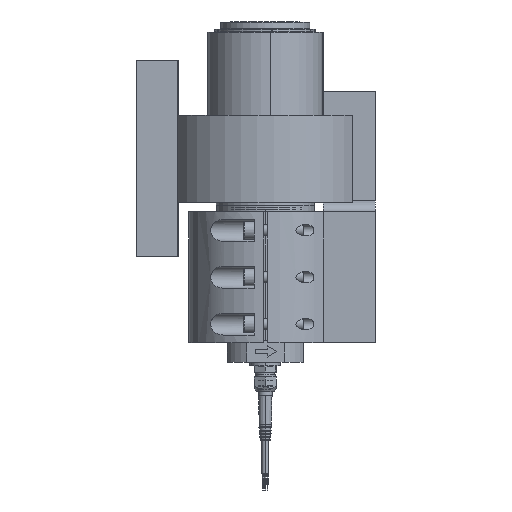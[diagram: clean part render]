
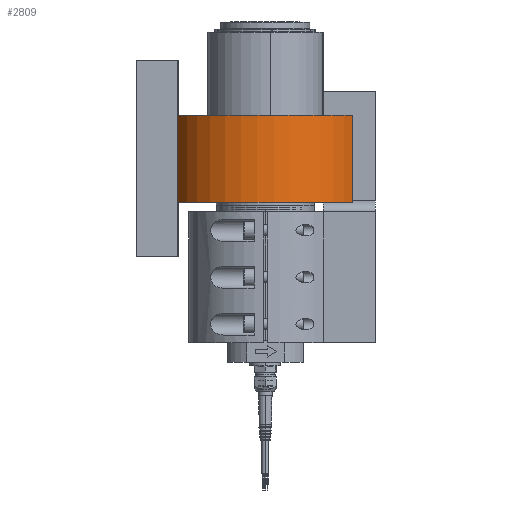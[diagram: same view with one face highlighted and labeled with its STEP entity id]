
A CAD part, left-side view. The second image highlights one B-rep face of the part: STEP entity #2809.
In plain terms, the highlighted cylindrical face has radius 89 mm (diameter 178 mm), a partial arc.
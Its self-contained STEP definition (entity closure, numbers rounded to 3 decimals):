
#1204 = CARTESIAN_POINT ( 'NONE',  ( 200., -80., -40. ) ) ;
#2445 = CARTESIAN_POINT ( 'NONE',  ( 239., 0., 40. ) ) ;
#2809 = ADVANCED_FACE ( 'NONE', ( #2856 ), #22918, .T. ) ;
#2856 = FACE_OUTER_BOUND ( 'NONE', #26923, .T. ) ;
#4667 = DIRECTION ( 'NONE',  ( 0., 0., -1. ) ) ;
#4773 = ORIENTED_EDGE ( 'NONE', *, *, #9980, .F. ) ;
#5910 = DIRECTION ( 'NONE',  ( 0., 0., -1. ) ) ;
#7178 = DIRECTION ( 'NONE',  ( -1., 0., 0. ) ) ;
#8385 = LINE ( 'NONE', #2445, #31697 ) ;
#9082 = VERTEX_POINT ( 'NONE', #31969 ) ;
#9980 = EDGE_CURVE ( 'NONE', #27619, #9082, #8385, .T. ) ;
#10208 = AXIS2_PLACEMENT_3D ( 'NONE', #1204, #4667, #7178 ) ;
#11312 = ORIENTED_EDGE ( 'NONE', *, *, #18009, .T. ) ;
#11700 = CARTESIAN_POINT ( 'NONE',  ( 200., -80., 40. ) ) ;
#12691 = CARTESIAN_POINT ( 'NONE',  ( 200., -80., 40. ) ) ;
#13656 = CARTESIAN_POINT ( 'NONE',  ( 239., -160., 40. ) ) ;
#14162 = DIRECTION ( 'NONE',  ( 0., 0., -1. ) ) ;
#14577 = DIRECTION ( 'NONE',  ( 0., 0., -1. ) ) ;
#16141 = DIRECTION ( 'NONE',  ( -1., 0., 0. ) ) ;
#16373 = EDGE_CURVE ( 'NONE', #9082, #35735, #37613, .T. ) ;
#17601 = VECTOR ( 'NONE', #5910, 1000. ) ;
#18009 = EDGE_CURVE ( 'NONE', #23436, #35735, #34923, .T. ) ;
#21521 = CIRCLE ( 'NONE', #25154, 89. ) ;
#21867 = CARTESIAN_POINT ( 'NONE',  ( 239., 0., 40. ) ) ;
#21993 = AXIS2_PLACEMENT_3D ( 'NONE', #11700, #14577, #34963 ) ;
#22396 = EDGE_CURVE ( 'NONE', #27619, #23436, #21521, .T. ) ;
#22918 = CYLINDRICAL_SURFACE ( 'NONE', #21993, 89. ) ;
#23253 = CARTESIAN_POINT ( 'NONE',  ( 239., -160., 40. ) ) ;
#23436 = VERTEX_POINT ( 'NONE', #13656 ) ;
#25154 = AXIS2_PLACEMENT_3D ( 'NONE', #12691, #36170, #16141 ) ;
#26923 = EDGE_LOOP ( 'NONE', ( #29640, #4773, #37546, #11312 ) ) ;
#27619 = VERTEX_POINT ( 'NONE', #21867 ) ;
#29640 = ORIENTED_EDGE ( 'NONE', *, *, #16373, .F. ) ;
#31697 = VECTOR ( 'NONE', #14162, 1000. ) ;
#31969 = CARTESIAN_POINT ( 'NONE',  ( 239., 0., -40. ) ) ;
#33266 = CARTESIAN_POINT ( 'NONE',  ( 239., -160., -40. ) ) ;
#34923 = LINE ( 'NONE', #23253, #17601 ) ;
#34963 = DIRECTION ( 'NONE',  ( -1., 0., 0. ) ) ;
#35735 = VERTEX_POINT ( 'NONE', #33266 ) ;
#36170 = DIRECTION ( 'NONE',  ( 0., 0., -1. ) ) ;
#37546 = ORIENTED_EDGE ( 'NONE', *, *, #22396, .T. ) ;
#37613 = CIRCLE ( 'NONE', #10208, 89. ) ;
